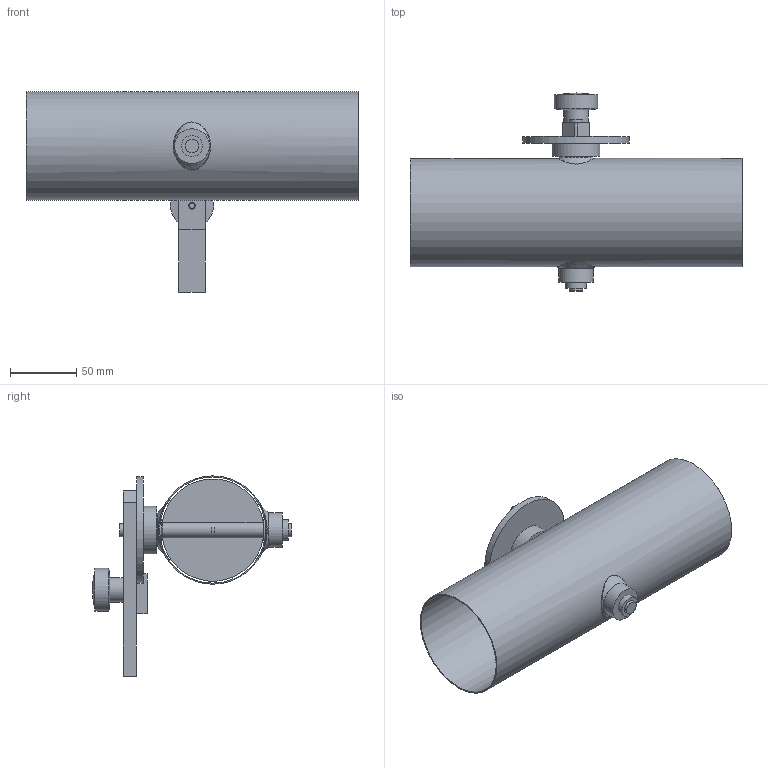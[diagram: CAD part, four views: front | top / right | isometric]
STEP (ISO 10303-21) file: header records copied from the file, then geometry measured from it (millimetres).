
FILE_DESCRIPTION(/* description */ (''),/* implementation_level */ '2;1');
FILE_NAME(/* name */ '',/* time_stamp */ '2023-03-10T15:04:58+01:00',/* author */ (''),/* organization */ (''),/* preprocessor_version */ 'ST-DEVELOPER v11',/* originating_system */ 'SIEMENS UGS NX 6.0',/* authorisation */ '');
FILE_SCHEMA (('CONFIG_CONTROL_DESIGN'));
Length unit declared in the file: millimetre
Products named in the file (1): d.ga8B38arpo
Bounding box: 250 x 149.17 x 150.8 mm (x, y, z)
Volume: 150356.9 mm3; surface area: 177112.6 mm2
Topology: 12 solids, 12 shells, 92 faces, 190 edges, 131 vertices
Faces by surface type: plane 46, cylinder 32, cone 4, bspline 4, torus 4, sphere 2
Full cylindrical faces by diameter (mm): 4.2 x1, 5 x1, 6 x1, 10 x5, 15 x3, 15.85 x2, 16.2 x2, 18.5 x1, 24 x2, 25 x1, 26 x1, 32.5 x1, 36 x1, 80 x2, 81.6 x1
Entity records: 2904 total; most frequent: CARTESIAN_POINT 1067, DIRECTION 374, ORIENTED_EDGE 264, AXIS2_PLACEMENT_3D 161, EDGE_LOOP 160, EDGE_CURVE 132, FACE_BOUND 130, VERTEX_POINT 110
